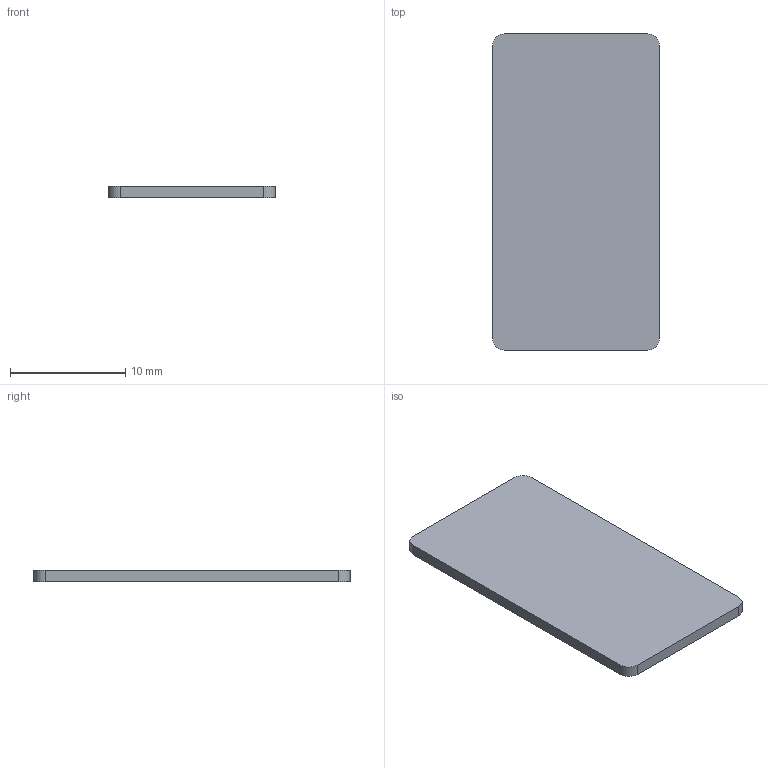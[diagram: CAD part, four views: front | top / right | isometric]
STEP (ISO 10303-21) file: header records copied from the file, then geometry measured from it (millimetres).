
FILE_DESCRIPTION(('Open CASCADE Model'),'2;1');
FILE_NAME('C27_R2_Battery_Rear_Pad_1_FREE_STATE','2026-09-09T17:52:57',( 'Author'),('Open CASCADE'),'Open CASCADE STEP processor 7.9', 'build123d','Unknown');
FILE_SCHEMA(('AUTOMOTIVE_DESIGN { 1 0 10303 214 1 1 1 1 }'));
Length unit declared in the file: millimetre
Products named in the file (1): C27_R2_Battery_Rear_Pad_1_FREE_STATE
Bounding box: 14.5 x 27.5 x 1 mm (x, y, z)
Volume: 397.9 mm3; surface area: 878.1 mm2
Topology: 1 solids, 1 shells, 10 faces, 24 edges, 16 vertices
Faces by surface type: plane 6, cylinder 4
Entity records: 653 total; most frequent: CARTESIAN_POINT 147, DIRECTION 94, LINE 56, VECTOR 56, ORIENTED_EDGE 48, PCURVE 48, DEFINITIONAL_REPRESENTATION 48, EDGE_CURVE 24
